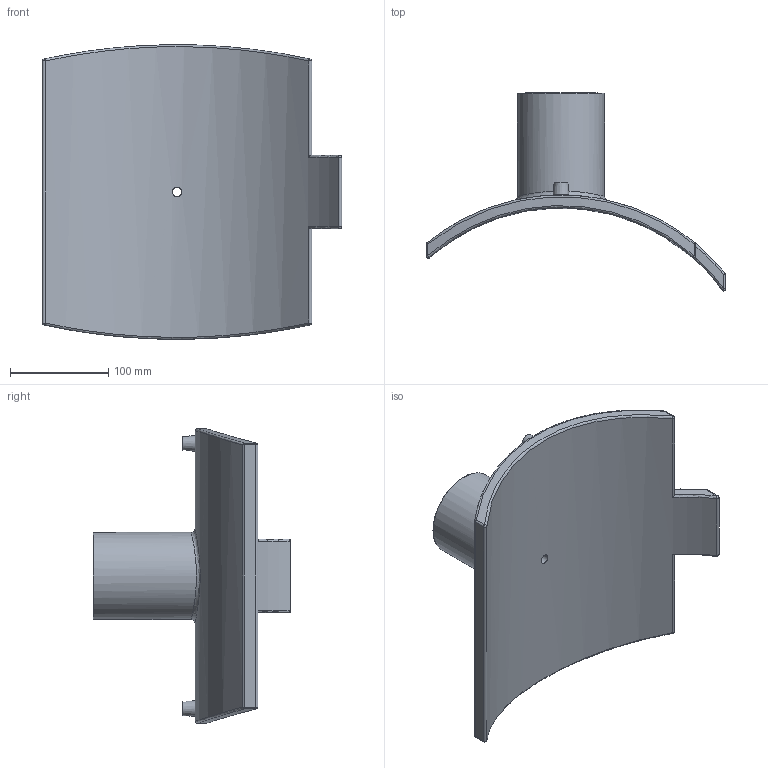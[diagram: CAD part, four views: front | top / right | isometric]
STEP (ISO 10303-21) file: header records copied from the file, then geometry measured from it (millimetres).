
FILE_DESCRIPTION(/* description */ ('PLASSON BRANCH SADDLE 10''''-16''''IPS x 10''''-14''''DIPS'),/* implementation_level */ '2;1');
FILE_NAME(/* name */ 'C:\Dropbox\KIMPROJECTS-Inventor 2019\99-16-3568-Processing Inch\ASTM ElectroFusion 2021\5958B-1\5958BB03160030.ipt.stp',/* time_stamp */ '2021-08-30T09:53:20+03:00',/* author */ ('KIM'),/* organization */ (''),/* preprocessor_version */ 'ST-DEVELOPER v17.2',/* originating_system */ 'Autodesk Inventor 2019',/* authorisation */ '');
FILE_SCHEMA (('AUTOMOTIVE_DESIGN { 1 0 10303 214 3 1 1 }'));
Length unit declared in the file: inch
Products named in the file (1): 5958BB03160030
Bounding box: 304.8 x 201.5 x 299.91 mm (x, y, z)
Volume: 1402083.4 mm3; surface area: 251426.2 mm2
Topology: 1 solids, 1 shells, 66 faces, 136 edges, 81 vertices
Faces by surface type: cylinder 27, plane 14, sphere 12, torus 6, bspline 5, cone 2
Full cylindrical faces by diameter (mm): 4 x2, 9.6 x1, 10 x2, 16 x1, 70.96 x1, 88.7 x1
Entity records: 2409 total; most frequent: CARTESIAN_POINT 975, DIRECTION 304, ORIENTED_EDGE 272, EDGE_CURVE 136, AXIS2_PLACEMENT_3D 132, VERTEX_POINT 81, EDGE_LOOP 77, CIRCLE 70
